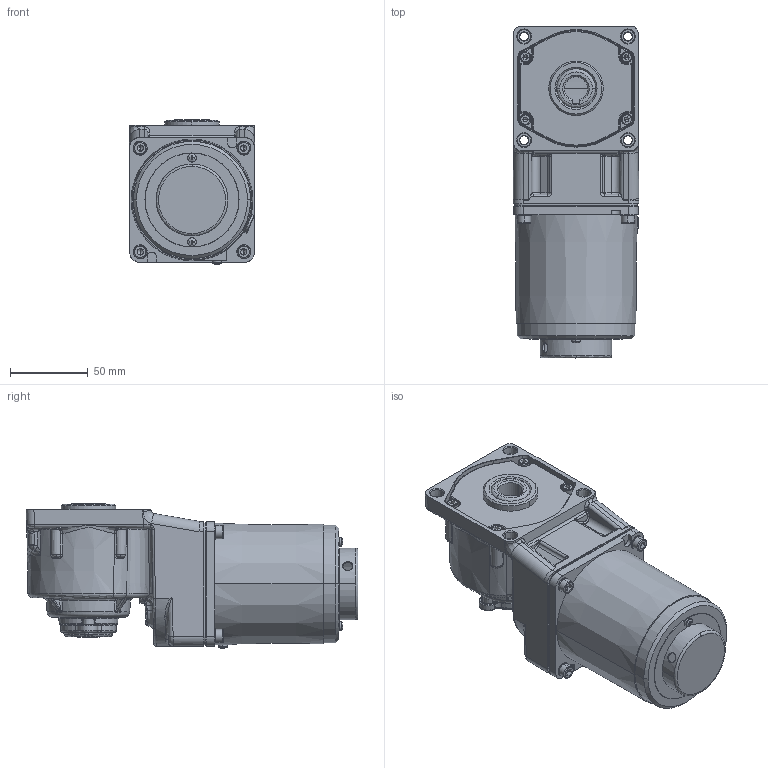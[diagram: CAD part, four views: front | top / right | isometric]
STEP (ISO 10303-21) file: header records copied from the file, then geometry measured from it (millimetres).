
FILE_DESCRIPTION (( 'STEP AP203' ), '1' );
FILE_NAME ('4IK25RGN-C(4GN3RC-180RC)ÐÂ.stp', '2022-02-25T06:48:02', ( 'PC' ), ( 'Microsoft' ), 'SwSTEP 2.0', 'SolidWorks 2014', '' );
FILE_SCHEMA (( 'CONFIG_CONTROL_DESIGN' ));
Length unit declared in the file: millimetre
Products named in the file (13): 80諾陑怀堤粣; 4IK25RGN-C(4GN3RC-180RC)陔; PRT0008; PRT0006_2; 90HXQ_2; 4IK25GN-C_5; 80TSZ; M5X20-S^4ik25gn-c-4gn3-180rc_asm(2)_80RC; hexagon socket head cap screws gb_GB_FASTENER_SCREWS_HSHCS M4X12-N; 80眻褒眊裔; zd-4gn1000rc-504-001-20211209（实心外形）; cross recessed pan head screws gb_GB_CROSS_SCREWS_TYPE1 M3X6-6  H type-N; 80綴傷裔
Assembly tree (20 placements, depth 2):
  4IK25RGN-C(4GN3RC-180RC)陔
    80綴傷裔
    zd-4gn1000rc-504-001-20211209（实心外形）
    cross recessed pan head screws gb_GB_CROSS_SCREWS_TYPE1 M3X6-6  H type-N  x2
    80眻褒眊裔
    80諾陑怀堤粣
    hexagon socket head cap screws gb_GB_FASTENER_SCREWS_HSHCS M4X12-N  x4
    M5X20-S^4ik25gn-c-4gn3-180rc_asm(2)_80RC  x4
    4IK25GN-C_5
    80TSZ
    90HXQ_2
    PRT0006_2  x2
    PRT0008
Bounding box: 80.6 x 212.72 x 92.81 mm (x, y, z)
Volume: 632041.5 mm3; surface area: 158550.1 mm2
Topology: 20 solids, 21 shells, 2672 faces, 6051 edges, 3405 vertices
Faces by surface type: cone 1045, cylinder 735, bspline 422, plane 396, torus 54, sphere 20
Entity records: 77351 total; most frequent: CARTESIAN_POINT 41098, ORIENTED_EDGE 7742, DIRECTION 6563, EDGE_CURVE 3871, AXIS2_PLACEMENT_3D 2624, VERTEX_POINT 2265, EDGE_LOOP 1794, FACE_OUTER_BOUND 1691
